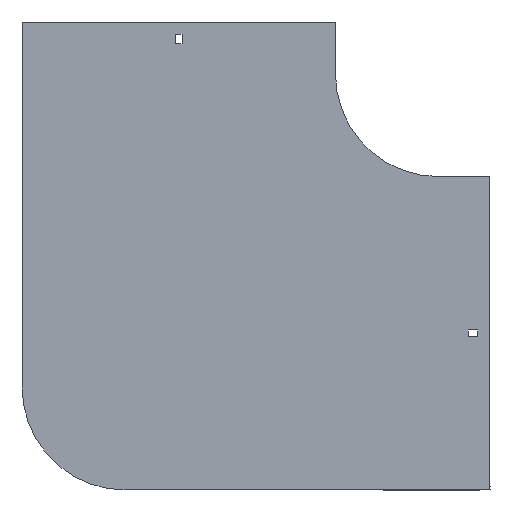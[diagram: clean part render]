
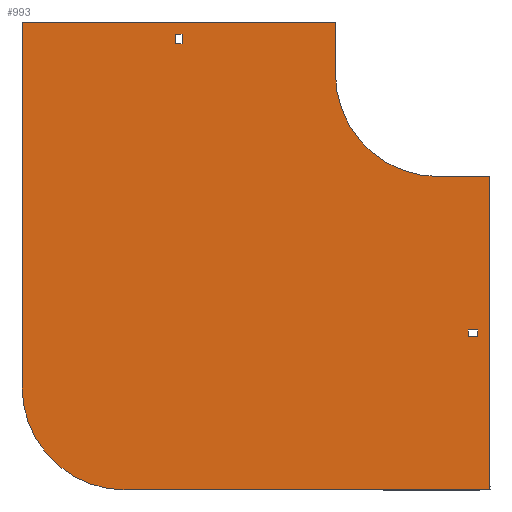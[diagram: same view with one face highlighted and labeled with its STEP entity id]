
A CAD part, front view. The second image highlights one B-rep face of the part: STEP entity #993.
In plain terms, the highlighted planar face has unit normal (0, -1, 0).
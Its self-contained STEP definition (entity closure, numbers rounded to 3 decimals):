
#13 = VERTEX_POINT ( 'NONE', #335 ) ;
#16 = CARTESIAN_POINT ( 'NONE',  ( -100., 0., 50. ) ) ;
#26 = CARTESIAN_POINT ( 'NONE',  ( -404., 0., -304. ) ) ;
#33 = CARTESIAN_POINT ( 'NONE',  ( -255.25, 0., 29. ) ) ;
#79 = CARTESIAN_POINT ( 'NONE',  ( 50., 0., -100. ) ) ;
#86 = DIRECTION ( 'NONE',  ( 0., 0., 1. ) ) ;
#89 = LINE ( 'NONE', #938, #182 ) ;
#108 = LINE ( 'NONE', #757, #1023 ) ;
#109 = DIRECTION ( 'NONE',  ( 0., 0., -1. ) ) ;
#112 = DIRECTION ( 'NONE',  ( 0., 0., -1. ) ) ;
#117 = ORIENTED_EDGE ( 'NONE', *, *, #249, .F. ) ;
#118 = AXIS2_PLACEMENT_3D ( 'NONE', #1204, #595, #1326 ) ;
#131 = CARTESIAN_POINT ( 'NONE',  ( 50., 0., -100. ) ) ;
#154 = LINE ( 'NONE', #1331, #1208 ) ;
#162 = DIRECTION ( 'NONE',  ( 0., 0., -1. ) ) ;
#182 = VECTOR ( 'NONE', #1387, 1000. ) ;
#205 = ORIENTED_EDGE ( 'NONE', *, *, #307, .F. ) ;
#213 = CARTESIAN_POINT ( 'NONE',  ( -304., 0., -304. ) ) ;
#215 = CARTESIAN_POINT ( 'NONE',  ( -255.25, 0., 38. ) ) ;
#217 = VERTEX_POINT ( 'NONE', #449 ) ;
#223 = VECTOR ( 'NONE', #842, 1000. ) ;
#224 = AXIS2_PLACEMENT_3D ( 'NONE', #213, #425, #437 ) ;
#229 = LINE ( 'NONE', #1080, #557 ) ;
#232 = PLANE ( 'NONE',  #354 ) ;
#241 = EDGE_CURVE ( 'NONE', #447, #13, #1209, .T. ) ;
#249 = EDGE_CURVE ( 'NONE', #559, #577, #815, .T. ) ;
#280 = VERTEX_POINT ( 'NONE', #79 ) ;
#287 = EDGE_CURVE ( 'NONE', #916, #416, #513, .T. ) ;
#297 = VERTEX_POINT ( 'NONE', #961 ) ;
#307 = EDGE_CURVE ( 'NONE', #585, #369, #650, .T. ) ;
#314 = CARTESIAN_POINT ( 'NONE',  ( 38., 0., -248.75 ) ) ;
#331 = FACE_BOUND ( 'NONE', #727, .T. ) ;
#335 = CARTESIAN_POINT ( 'NONE',  ( -248.75, 0., 29. ) ) ;
#354 = AXIS2_PLACEMENT_3D ( 'NONE', #1069, #759, #962 ) ;
#369 = VERTEX_POINT ( 'NONE', #612 ) ;
#374 = VECTOR ( 'NONE', #1291, 1000. ) ;
#395 = VECTOR ( 'NONE', #86, 1000. ) ;
#415 = VERTEX_POINT ( 'NONE', #314 ) ;
#416 = VERTEX_POINT ( 'NONE', #502 ) ;
#425 = DIRECTION ( 'NONE',  ( 0., 1., 0. ) ) ;
#428 = FACE_BOUND ( 'NONE', #1361, .T. ) ;
#429 = CARTESIAN_POINT ( 'NONE',  ( 29., 0., -248.75 ) ) ;
#432 = VERTEX_POINT ( 'NONE', #844 ) ;
#437 = DIRECTION ( 'NONE',  ( 0., 0., 1. ) ) ;
#438 = CARTESIAN_POINT ( 'NONE',  ( -248.75, 0., 29. ) ) ;
#447 = VERTEX_POINT ( 'NONE', #516 ) ;
#449 = CARTESIAN_POINT ( 'NONE',  ( 0., 0., -100. ) ) ;
#465 = EDGE_CURVE ( 'NONE', #432, #297, #229, .T. ) ;
#486 = ORIENTED_EDGE ( 'NONE', *, *, #946, .F. ) ;
#488 = VERTEX_POINT ( 'NONE', #429 ) ;
#496 = VECTOR ( 'NONE', #937, 1000. ) ;
#502 = CARTESIAN_POINT ( 'NONE',  ( 38., 0., -255.25 ) ) ;
#503 = ORIENTED_EDGE ( 'NONE', *, *, #1313, .F. ) ;
#513 = LINE ( 'NONE', #932, #374 ) ;
#516 = CARTESIAN_POINT ( 'NONE',  ( -248.75, 0., 38. ) ) ;
#529 = EDGE_CURVE ( 'NONE', #280, #432, #1089, .T. ) ;
#531 = ORIENTED_EDGE ( 'NONE', *, *, #529, .F. ) ;
#538 = VERTEX_POINT ( 'NONE', #215 ) ;
#540 = LINE ( 'NONE', #553, #223 ) ;
#553 = CARTESIAN_POINT ( 'NONE',  ( -404., 0., 50. ) ) ;
#557 = VECTOR ( 'NONE', #1174, 1000. ) ;
#559 = VERTEX_POINT ( 'NONE', #26 ) ;
#577 = VERTEX_POINT ( 'NONE', #753 ) ;
#585 = VERTEX_POINT ( 'NONE', #16 ) ;
#588 = DIRECTION ( 'NONE',  ( 1., 0., 0. ) ) ;
#594 = DIRECTION ( 'NONE',  ( 0., 0., 1. ) ) ;
#595 = DIRECTION ( 'NONE',  ( 0., -1., 0. ) ) ;
#602 = CARTESIAN_POINT ( 'NONE',  ( -255.25, 0., 29. ) ) ;
#611 = CARTESIAN_POINT ( 'NONE',  ( -255.25, 0., 38. ) ) ;
#612 = CARTESIAN_POINT ( 'NONE',  ( -100., 0., 0. ) ) ;
#624 = LINE ( 'NONE', #1241, #496 ) ;
#650 = LINE ( 'NONE', #1059, #1111 ) ;
#660 = EDGE_CURVE ( 'NONE', #369, #217, #701, .T. ) ;
#663 = ORIENTED_EDGE ( 'NONE', *, *, #1182, .F. ) ;
#670 = VERTEX_POINT ( 'NONE', #33 ) ;
#686 = ORIENTED_EDGE ( 'NONE', *, *, #1205, .T. ) ;
#690 = ORIENTED_EDGE ( 'NONE', *, *, #660, .F. ) ;
#701 = CIRCLE ( 'NONE', #118, 100. ) ;
#723 = VECTOR ( 'NONE', #112, 1000. ) ;
#726 = ORIENTED_EDGE ( 'NONE', *, *, #893, .F. ) ;
#727 = EDGE_LOOP ( 'NONE', ( #726, #834, #1090, #663 ) ) ;
#746 = CARTESIAN_POINT ( 'NONE',  ( 29., 0., -255.25 ) ) ;
#753 = CARTESIAN_POINT ( 'NONE',  ( -404., 0., 50. ) ) ;
#757 = CARTESIAN_POINT ( 'NONE',  ( -255.25, 0., 29. ) ) ;
#759 = DIRECTION ( 'NONE',  ( 0., -1., 0. ) ) ;
#797 = EDGE_CURVE ( 'NONE', #538, #447, #1150, .T. ) ;
#806 = VECTOR ( 'NONE', #162, 1000. ) ;
#815 = LINE ( 'NONE', #994, #395 ) ;
#834 = ORIENTED_EDGE ( 'NONE', *, *, #287, .F. ) ;
#842 = DIRECTION ( 'NONE',  ( 1., 0., 0. ) ) ;
#844 = CARTESIAN_POINT ( 'NONE',  ( 50., 0., -404. ) ) ;
#859 = DIRECTION ( 'NONE',  ( 0., 0., -1. ) ) ;
#860 = FACE_OUTER_BOUND ( 'NONE', #870, .T. ) ;
#870 = EDGE_LOOP ( 'NONE', ( #486, #117, #503, #1309, #531, #1340, #690, #205 ) ) ;
#893 = EDGE_CURVE ( 'NONE', #416, #415, #89, .T. ) ;
#907 = LINE ( 'NONE', #1249, #806 ) ;
#914 = LINE ( 'NONE', #602, #1140 ) ;
#916 = VERTEX_POINT ( 'NONE', #746 ) ;
#932 = CARTESIAN_POINT ( 'NONE',  ( 29., 0., -255.25 ) ) ;
#937 = DIRECTION ( 'NONE',  ( -1., 0., 0. ) ) ;
#938 = CARTESIAN_POINT ( 'NONE',  ( 38., 0., -255.25 ) ) ;
#946 = EDGE_CURVE ( 'NONE', #577, #585, #540, .T. ) ;
#961 = CARTESIAN_POINT ( 'NONE',  ( -304., 0., -404. ) ) ;
#962 = DIRECTION ( 'NONE',  ( 0., 0., -1. ) ) ;
#973 = VECTOR ( 'NONE', #859, 1000. ) ;
#993 = ADVANCED_FACE ( 'NONE', ( #428, #860, #331 ), #232, .T. ) ;
#994 = CARTESIAN_POINT ( 'NONE',  ( -404., 0., -304. ) ) ;
#1023 = VECTOR ( 'NONE', #1176, 1000. ) ;
#1048 = ORIENTED_EDGE ( 'NONE', *, *, #241, .T. ) ;
#1059 = CARTESIAN_POINT ( 'NONE',  ( -100., 0., 50. ) ) ;
#1069 = CARTESIAN_POINT ( 'NONE',  ( 0., 0., 0. ) ) ;
#1080 = CARTESIAN_POINT ( 'NONE',  ( 50., 0., -404. ) ) ;
#1088 = EDGE_CURVE ( 'NONE', #217, #280, #154, .T. ) ;
#1089 = LINE ( 'NONE', #131, #723 ) ;
#1090 = ORIENTED_EDGE ( 'NONE', *, *, #1245, .F. ) ;
#1111 = VECTOR ( 'NONE', #109, 1000. ) ;
#1135 = ORIENTED_EDGE ( 'NONE', *, *, #797, .T. ) ;
#1140 = VECTOR ( 'NONE', #594, 1000. ) ;
#1150 = LINE ( 'NONE', #611, #1213 ) ;
#1174 = DIRECTION ( 'NONE',  ( -1., 0., 0. ) ) ;
#1176 = DIRECTION ( 'NONE',  ( -1., 0., 0. ) ) ;
#1182 = EDGE_CURVE ( 'NONE', #415, #488, #624, .T. ) ;
#1204 = CARTESIAN_POINT ( 'NONE',  ( 0., 0., 0. ) ) ;
#1205 = EDGE_CURVE ( 'NONE', #670, #538, #914, .T. ) ;
#1208 = VECTOR ( 'NONE', #588, 1000. ) ;
#1209 = LINE ( 'NONE', #438, #973 ) ;
#1213 = VECTOR ( 'NONE', #1244, 1000. ) ;
#1241 = CARTESIAN_POINT ( 'NONE',  ( 29., 0., -248.75 ) ) ;
#1244 = DIRECTION ( 'NONE',  ( 1., 0., 0. ) ) ;
#1245 = EDGE_CURVE ( 'NONE', #488, #916, #907, .T. ) ;
#1249 = CARTESIAN_POINT ( 'NONE',  ( 29., 0., -255.25 ) ) ;
#1261 = CIRCLE ( 'NONE', #224, 100. ) ;
#1291 = DIRECTION ( 'NONE',  ( 1., 0., 0. ) ) ;
#1309 = ORIENTED_EDGE ( 'NONE', *, *, #465, .F. ) ;
#1313 = EDGE_CURVE ( 'NONE', #297, #559, #1261, .T. ) ;
#1326 = DIRECTION ( 'NONE',  ( 0., 0., -1. ) ) ;
#1331 = CARTESIAN_POINT ( 'NONE',  ( 0., 0., -100. ) ) ;
#1340 = ORIENTED_EDGE ( 'NONE', *, *, #1088, .F. ) ;
#1361 = EDGE_LOOP ( 'NONE', ( #686, #1135, #1048, #1389 ) ) ;
#1382 = EDGE_CURVE ( 'NONE', #13, #670, #108, .T. ) ;
#1387 = DIRECTION ( 'NONE',  ( 0., 0., 1. ) ) ;
#1389 = ORIENTED_EDGE ( 'NONE', *, *, #1382, .T. ) ;
